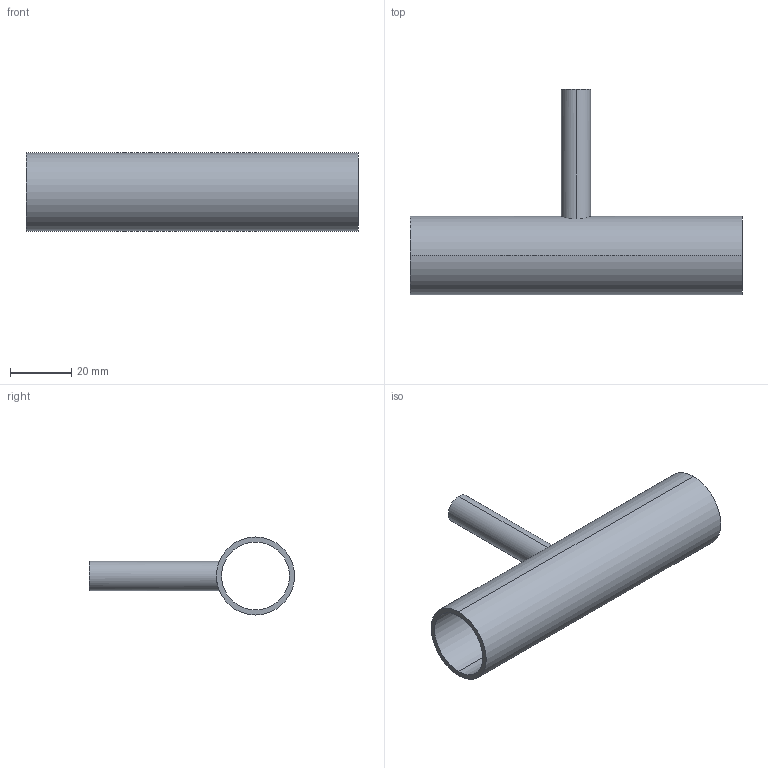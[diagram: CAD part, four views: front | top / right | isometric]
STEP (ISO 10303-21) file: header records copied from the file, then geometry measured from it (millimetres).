
FILE_DESCRIPTION (( 'STEP AP214' ), '1' );
FILE_NAME ('TE7RWWW6L1.0x.375-...STEP', '2016-05-24T04:08:46', ( 'eran' ), ( '' ), 'SwSTEP 2.0', 'SolidWorks 2016', '' );
FILE_SCHEMA (( 'AUTOMOTIVE_DESIGN' ));
Length unit declared in the file: millimetre
Products named in the file (1): TE7RWWW6L1.0x.375-..
Bounding box: 108 x 66.7 x 25.4 mm (x, y, z)
Volume: 14224 mm3; surface area: 18570.6 mm2
Topology: 1 solids, 1 shells, 11 faces, 24 edges, 16 vertices
Faces by surface type: cylinder 8, plane 3
Entity records: 476 total; most frequent: CARTESIAN_POINT 184, DIRECTION 56, ORIENTED_EDGE 48, EDGE_CURVE 24, AXIS2_PLACEMENT_3D 24, VERTEX_POINT 16, EDGE_LOOP 16, CIRCLE 12
